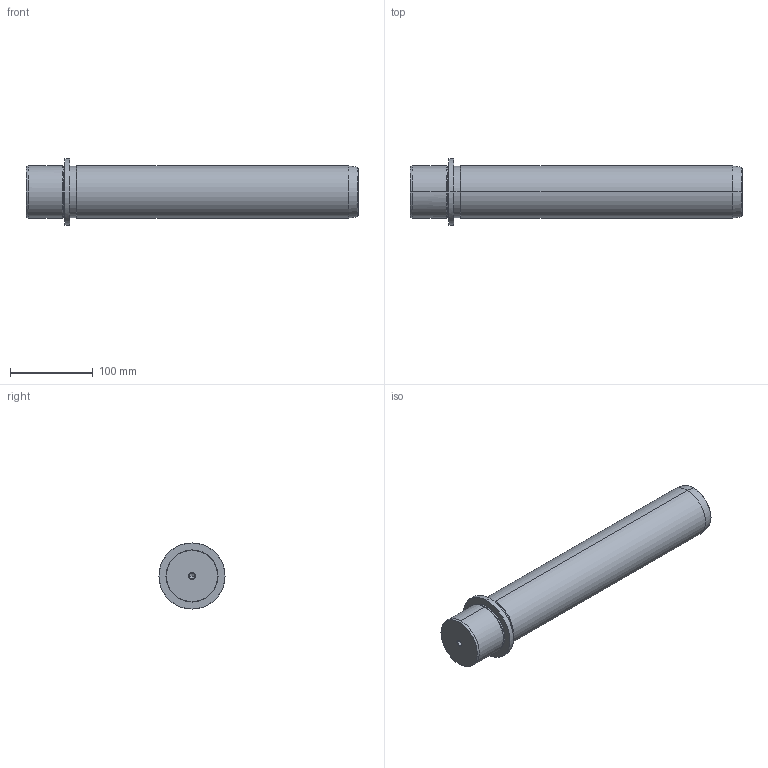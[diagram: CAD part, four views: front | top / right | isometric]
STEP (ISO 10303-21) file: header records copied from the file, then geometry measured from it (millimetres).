
FILE_DESCRIPTION(('CATIA V5 STEP Exchange'),'2;1');
FILE_NAME('C:\Users\Utente\Desktop\IO LAVORO\3D X SITO CF\X SITO\719\719-63x355.stp','2021-01-03T14:42:17+00:00',('none'),('none'),'CATIA Version 5 Release 20 GA (IN-10)','CATIA V5 STEP AP203','none');
FILE_SCHEMA(('CONFIG_CONTROL_DESIGN'));
Length unit declared in the file: millimetre
Products named in the file (1): 719-63x355
Bounding box: 402 x 80 x 80 mm (x, y, z)
Volume: 1259858.1 mm3; surface area: 90677.6 mm2
Topology: 1 solids, 1 shells, 36 faces, 100 edges, 66 vertices
Faces by surface type: cone 16, cylinder 14, plane 4, torus 2
Entity records: 1273 total; most frequent: CARTESIAN_POINT 342, ORIENTED_EDGE 192, DIRECTION 158, EDGE_CURVE 96, AXIS2_PLACEMENT_3D 93, VERTEX_POINT 66, CIRCLE 56, EDGE_LOOP 40
